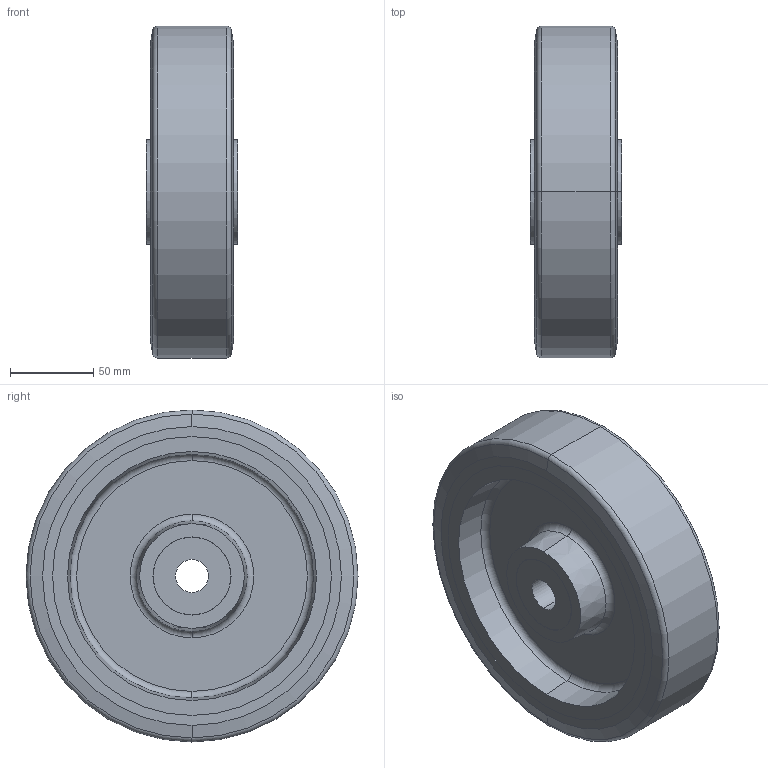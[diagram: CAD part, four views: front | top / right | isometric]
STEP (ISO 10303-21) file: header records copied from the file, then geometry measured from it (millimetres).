
FILE_DESCRIPTION (( 'STEP AP214' ), '1' );
FILE_NAME ('22887-200-K-A.step', '2024-10-28T09:27:01', ( '' ), ( '' ), 'SwSTEP 2.0', 'SolidWorks 2022', '' );
FILE_SCHEMA (( 'AUTOMOTIVE_DESIGN' ));
Length unit declared in the file: millimetre
Products named in the file (1): 22887-200-K-A
Bounding box: 55 x 200 x 200 mm (x, y, z)
Volume: 956529.5 mm3; surface area: 121860.7 mm2
Topology: 1 solids, 1 shells, 64 faces, 128 edges, 80 vertices
Faces by surface type: cylinder 24, plane 16, cone 12, torus 12
Entity records: 1976 total; most frequent: DIRECTION 350, CARTESIAN_POINT 273, ORIENTED_EDGE 256, AXIS2_PLACEMENT_3D 157, EDGE_CURVE 128, CIRCLE 92, VERTEX_POINT 80, EDGE_LOOP 80
